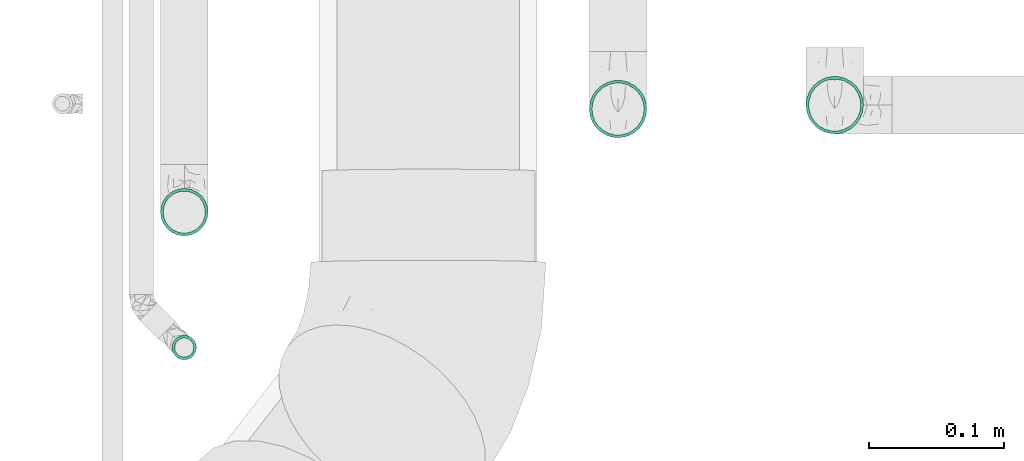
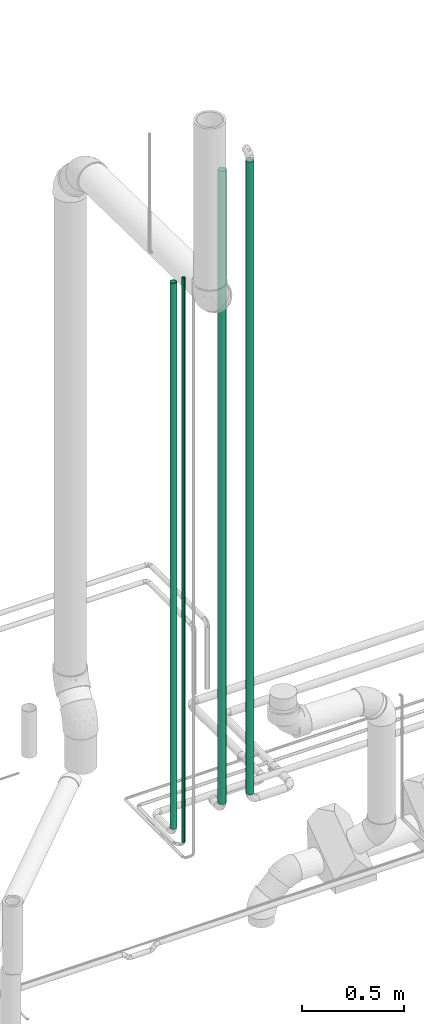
# One storey, part 47 of 156: 4 flow segments.
"""IFC2X3 building model written with IfcOpenShell, lengths in millimetres."""

from ifc_helpers import new_model, entity, si_unit, converted_unit, derived_unit, direction, frame, origin_with_axes, origin_2d_with_axis, place, context, subcontext, project, spatial, hollow_circle, extrude, source, transform, mapped, type_object, element, save


model = new_model("IFC2X3")

# Units and contexts
model_context = context("Model", 3, precision=0.01, world=frame((0.0, 4.29681676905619e-09, 0.0)), true_north=direction((4.01073788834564e-13, 1.0)))
plan_context = context("Plan", 3, precision=0.01, world=frame((0.0, 4.29681676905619e-09, 0.0)), true_north=direction((4.01073788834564e-13, 1.0)))
body_context = subcontext(model_context, "Body", "Model", "MODEL_VIEW")
ifc_project = project(units=[converted_unit("PLANEANGLEUNIT", "DEGREE", entity("IfcPositiveLengthMeasure", 0.0174532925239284), si_unit("PLANEANGLEUNIT", "RADIAN"), dimensions=[0, 0, 0, 0, 0, 0, 0]), si_unit("AREAUNIT", "SQUARE_METRE"), si_unit("LENGTHUNIT", "METRE", prefix="MILLI"), si_unit("MASSUNIT", "GRAM", prefix="KILO"), si_unit("POWERUNIT", "WATT"), si_unit("PRESSUREUNIT", "PASCAL", prefix="KILO"), si_unit("FORCEUNIT", "NEWTON", prefix="KILO"), si_unit("ELECTRICVOLTAGEUNIT", "VOLT"), si_unit("ELECTRICCURRENTUNIT", "AMPERE"), si_unit("THERMODYNAMICTEMPERATUREUNIT", "DEGREE_CELSIUS"), si_unit("TIMEUNIT", "SECOND"), si_unit("VOLUMEUNIT", "CUBIC_METRE"), derived_unit("LINEARVELOCITYUNIT", [(si_unit("LENGTHUNIT", "METRE"), 1), (si_unit("TIMEUNIT", "SECOND"), -1)]), derived_unit("VOLUMETRICFLOWRATEUNIT", [(si_unit("VOLUMEUNIT", "CUBIC_METRE"), 1), (si_unit("TIMEUNIT", "SECOND"), -1)]), derived_unit("THERMALTRANSMITTANCEUNIT", [(si_unit("POWERUNIT", "WATT"), 1), (si_unit("THERMODYNAMICTEMPERATUREUNIT", "KELVIN"), -1), (si_unit("AREAUNIT", "SQUARE_METRE"), -1)]), derived_unit("SOUNDPRESSUREUNIT", [(si_unit("PRESSUREUNIT", "PASCAL"), 1)])], contexts=[model_context, plan_context])

# Site, building, storey
site_placement = place(None, frame((0.0, -4.29681676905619e-09, 0.0), z_axis=(0.0, 0.0, 1.0), x_axis=(1.0, 0.0, 0.0)))
site = spatial("IfcSite", under=ifc_project, at=site_placement, CompositionType="ELEMENT")
building_placement = place(site_placement, frame((0.0, 4.29681676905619e-09, 0.0), z_axis=(0.0, 0.0, 1.0), x_axis=(1.0, 0.0, 0.0)))
building = spatial("IfcBuilding", under=site, at=building_placement, Name="mc-building", CompositionType="ELEMENT")
storey_placement = place(building_placement, frame((0.0, 0.0, 205200.0), z_axis=(0.0, 0.0, 1.0), x_axis=(1.0, 0.0, 0.0)))
storey = spatial("IfcBuildingStorey", under=building, at=storey_placement, Name="Nivå D + 1,2 m", CompositionType="ELEMENT", Elevation=205200.0)

# Flow segments
pipe_segment_type_1 = type_object("IfcPipeSegmentType", Name="Stålrør normaltykke", PredefinedType="RIGIDSEGMENT")
shared_shape_1 = source(origin_with_axes(), body_context, "Body", "SweptSolid", [
    extrude(hollow_circle(Radius=21.2, WallThickness=2.0, at=origin_2d_with_axis()), frame((0.0, 0.0, 0.0), z_axis=(1.0, 0.0, 0.0), x_axis=(0.0, 1.0, 0.0)), (0.0, 0.0, 1.0), 3797.7),
])
for number, where, z_axis, x_axis in (
    (1, (324608.8625, 463169.03228, 4345.89999999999), (0.0, -1.0, 0.0), (0.0, 0.0, 1.0)),
    (2, (324448.8625, 463166.1423, 4345.89999999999), (0.0, 1.0, 0.0), (0.0, 0.0, 1.0)),
):
    element("IfcFlowSegment", number, at=place(storey_placement, frame(where, z_axis=z_axis, x_axis=x_axis)), inside=storey, type_object=pipe_segment_type_1, Name="Stålrør normaltykke", context=body_context, shape_type="MappedRepresentation", body=[
        mapped(shared_shape_1, transform((0.0, 0.0, 0.0), scale=1.0)),
    ])
pipe_segment_type_2 = type_object("IfcPipeSegmentType", Name="Kobberrør", PredefinedType="RIGIDSEGMENT")
shared_shape_2 = source(origin_with_axes(), body_context, "Body", "SweptSolid", [
    extrude(hollow_circle(Radius=17.5, WallThickness=2.0, at=origin_2d_with_axis()), frame((0.0, 0.0, 0.0), z_axis=(1.0, 0.0, 0.0), x_axis=(0.0, 1.0, 0.0)), (0.0, 0.0, 1.0), 3275.3),
])
flow_segment_1_placement = place(storey_placement, frame((324128.525, 463090.0, 4353.0), z_axis=(0.0, -1.0, 0.0), x_axis=(0.0, 0.0, 1.0)))
element("IfcFlowSegment", 3, at=flow_segment_1_placement, inside=storey, type_object=pipe_segment_type_2, Name="Kobberrør", context=body_context, shape_type="MappedRepresentation", body=[
    mapped(shared_shape_2, transform((0.0, 0.0, 0.0), scale=1.0)),
])
shared_shape_3 = source(origin_with_axes(), body_context, "Body", "SweptSolid", [
    extrude(hollow_circle(Radius=9.0, WallThickness=2.0, at=origin_2d_with_axis()), frame((0.0, 0.0, 0.0), z_axis=(1.0, 0.0, 0.0), x_axis=(0.0, 1.0, 0.0)), (0.0, 0.0, 1.0), 3387.1),
])
flow_segment_2_placement = place(storey_placement, frame((324128.525, 462990.0, 7714.14094000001), z_axis=(0.0, -1.0, 0.0), x_axis=(0.0, 0.0, -1.0)))
element("IfcFlowSegment", 4, at=flow_segment_2_placement, inside=storey, type_object=pipe_segment_type_2, Name="Kobberrør", context=body_context, shape_type="MappedRepresentation", body=[
    mapped(shared_shape_3, transform((0.0, 0.0, 0.0), scale=1.0)),
])

save(model, "model.ifc")
